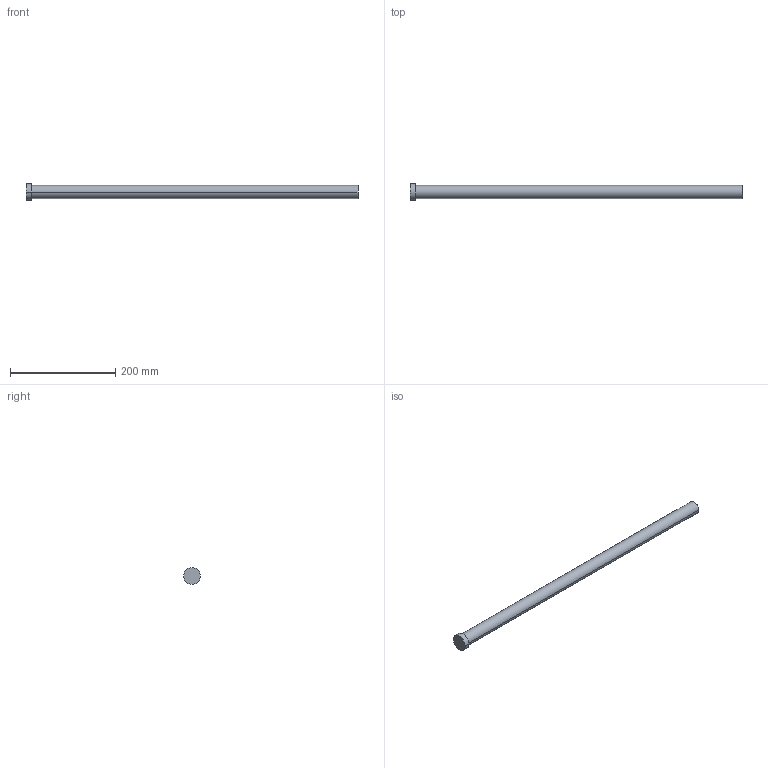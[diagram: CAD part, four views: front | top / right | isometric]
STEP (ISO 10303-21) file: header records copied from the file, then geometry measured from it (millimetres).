
FILE_DESCRIPTION (( 'STEP AP214' ), '1' );
FILE_NAME ('A-25x630.STEP', '2020-05-29T16:28:07', ( 'August' ), ( '' ), 'SwSTEP 2.0', 'SolidWorks 2018', '' );
FILE_SCHEMA (( 'AUTOMOTIVE_DESIGN' ));
Length unit declared in the file: millimetre
Products named in the file (1): A-25x630
Bounding box: 630 x 32 x 32 mm (x, y, z)
Volume: 312401.4 mm3; surface area: 51275.2 mm2
Topology: 1 solids, 1 shells, 9 faces, 16 edges, 10 vertices
Faces by surface type: cylinder 4, plane 3, torus 2
Entity records: 260 total; most frequent: DIRECTION 48, CARTESIAN_POINT 36, ORIENTED_EDGE 32, AXIS2_PLACEMENT_3D 22, EDGE_CURVE 16, CIRCLE 12, EDGE_LOOP 10, VERTEX_POINT 10
